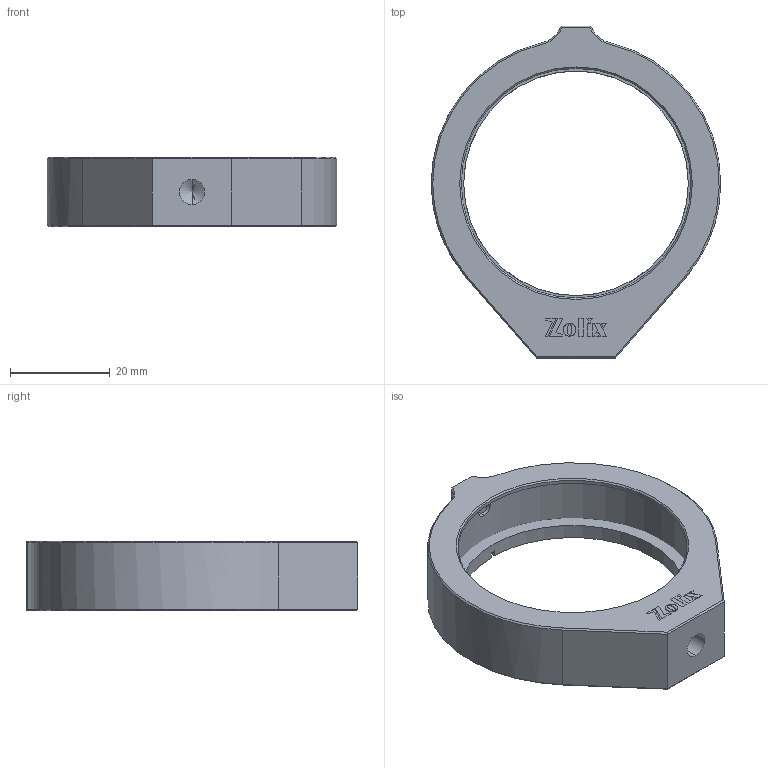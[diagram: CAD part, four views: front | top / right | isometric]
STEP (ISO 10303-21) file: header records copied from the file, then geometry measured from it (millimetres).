
FILE_DESCRIPTION (( 'STEP AP214' ), '1' );
FILE_NAME ('NLB50.step', '2019-05-10T01:44:25', ( '' ), ( '' ), 'SwSTEP 2.0', 'SolidWorks 2016', '' );
FILE_SCHEMA (( 'AUTOMOTIVE_DESIGN' ));
Length unit declared in the file: millimetre
Products named in the file (1): NLB50
Bounding box: 58 x 66.5 x 14 mm (x, y, z)
Volume: 13679.9 mm3; surface area: 9166.3 mm2
Topology: 4 solids, 4 shells, 240 faces, 634 edges, 410 vertices
Faces by surface type: plane 192, cone 27, cylinder 21
Entity records: 10047 total; most frequent: CARTESIAN_POINT 1369, ORIENTED_EDGE 1260, DIRECTION 1178, EDGE_CURVE 630, LINE 536, VECTOR 536, VERTEX_POINT 410, AXIS2_PLACEMENT_3D 321
